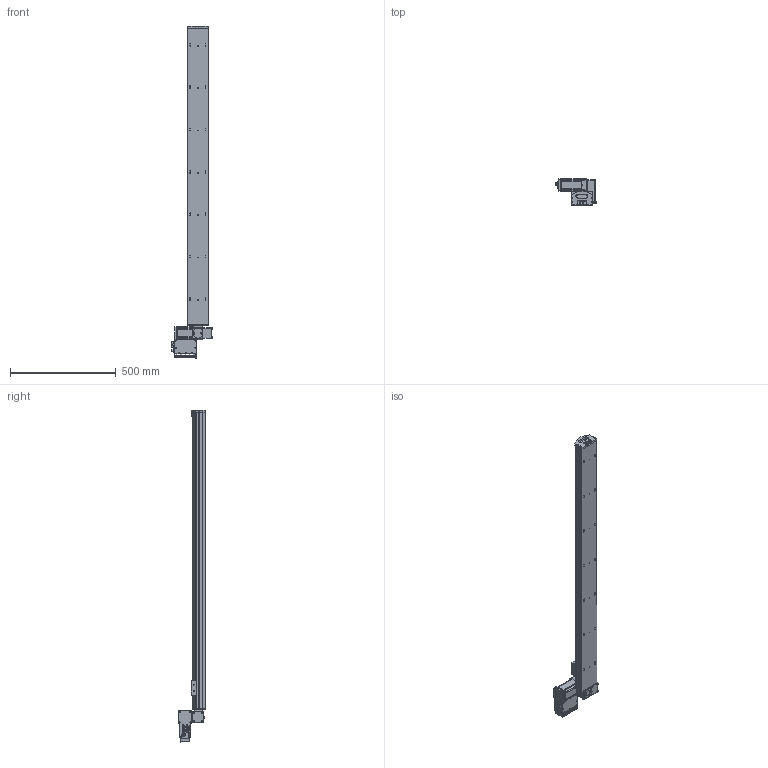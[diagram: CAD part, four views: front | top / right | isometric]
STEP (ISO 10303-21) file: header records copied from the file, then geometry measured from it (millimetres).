
FILE_DESCRIPTION (( 'STEP AP203' ), '1' );
FILE_NAME ('S10 TBN LT S1400.STEP', '2012-06-19T09:49:59', ( 'Conseil Régional Haute-Normandie' ), ( 'Conseil Régional Haute-Normandie' ), 'SwSTEP 2.0', 'SolidWorks 2010', '' );
FILE_SCHEMA (( 'CONFIG_CONTROL_DESIGN' ));
Length unit declared in the file: millimetre
Products named in the file (28): Plaque racord_Default; plaque de bout s10_Default; BU45 Carte d''axe A11_5; Colonnette_3; Sub D 9cts 90_X2_00B_X0__3; Connecteur rond D12 4cts_5; Radiateur profil_X2_00E9_X0_ 100x25_3; vis M5 L12_Default; vis M5 L5_Default; S10 TBN LT S1400; cache t皻e axe_Default; cache t皻e_Default; renvoi LH_Default; Assem1_7; T_X2_00F4_X0_le contre le moteur_5; BU41 Carte Alimentation P05_3; Moteur 60BLDC90A_3; Couvercle_3; T_X2_00F4_X0_le fond_3; Connecteur rond D10 3cts_5; Colonnette ronde_3; T_X2_00F4_X0_le Arri_X2_00E8_X0_re_5; T_X2_00F4_X0_le lat_X2_00E9_X0_rale_5; Vis TF 3 torkx_1_1; Cvis M5 L30_Default; palette tbn; axe 1400; embout
Assembly tree (58 placements, depth 3):
  S10 TBN LT S1400
    axe 1400
    cache t皻e axe_Default
    vis M5 L5_Default  x4
    embout
    Cvis M5 L30_Default  x2
    palette tbn
    vis M5 L12_Default  x4
    cache t皻e_Default  x2
    Plaque racord_Default
    renvoi LH_Default
    plaque de bout s10_Default
    Assem1_7
      Colonnette_3  x2
      BU45 Carte d''axe A11_5
      Vis TF 3 torkx_1_1  x21
      Connecteur rond D10 3cts_5  x2
      Connecteur rond D12 4cts_5
      Moteur 60BLDC90A_3
      T_X2_00F4_X0_le lat_X2_00E9_X0_rale_5  x2
      T_X2_00F4_X0_le Arri_X2_00E8_X0_re_5
      Radiateur profil_X2_00E9_X0_ 100x25_3
      Couvercle_3
      T_X2_00F4_X0_le fond_3
      Colonnette ronde_3
      T_X2_00F4_X0_le contre le moteur_5
      BU41 Carte Alimentation P05_3
      Sub D 9cts 90_X2_00B_X0__3
Bounding box: 189.8 x 127 x 1566.5 mm (x, y, z)
Volume: 8092188.3 mm3; surface area: 978236.2 mm2
Topology: 57 solids, 57 shells, 2196 faces, 5485 edges, 3550 vertices
Faces by surface type: plane 1031, cylinder 964, cone 166, bspline 32, torus 3
Entity records: 46679 total; most frequent: CARTESIAN_POINT 8441, DIRECTION 7546, ORIENTED_EDGE 6866, EDGE_CURVE 3433, AXIS2_PLACEMENT_3D 2804, VERTEX_POINT 2244, VECTOR 1938, LINE 1938
